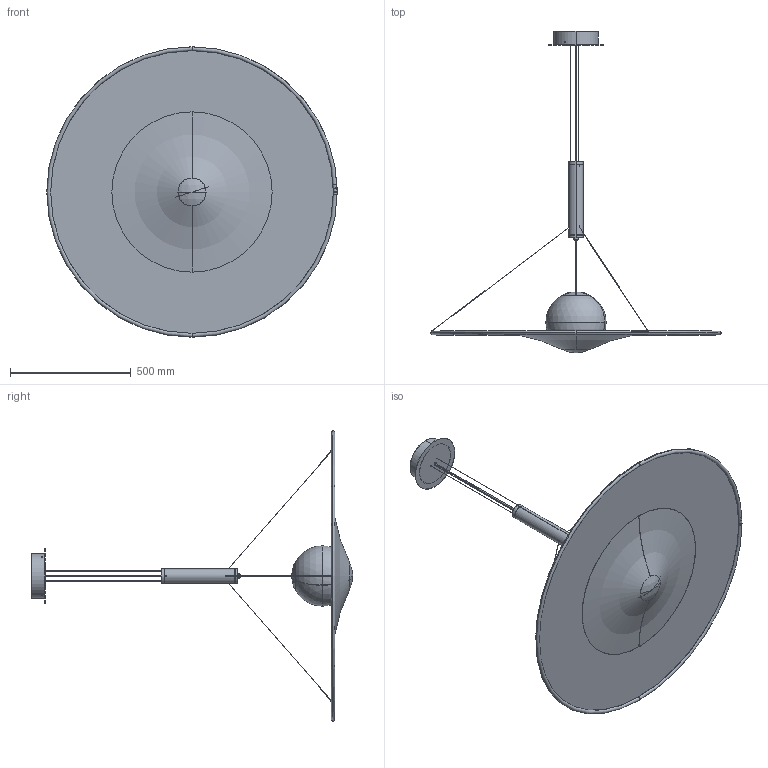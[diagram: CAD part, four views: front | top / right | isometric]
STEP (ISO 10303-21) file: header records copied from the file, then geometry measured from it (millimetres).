
FILE_DESCRIPTION (( 'STEP AP203' ), '1' );
FILE_NAME ('1200down.STEP', '2019-07-25T15:39:08', ( '' ), ( '' ), 'SwSTEP 2.0', 'SolidWorks 2019', '' );
FILE_SCHEMA (( 'CONFIG_CONTROL_DESIGN' ));
Length unit declared in the file: millimetre
Products named in the file (27): 1.5A.AXO02.LS01.S1_rev_A.STEP; Part172^1200down; 1.5C.AXO02.LS01.13_rev_A_Default_A macchina_.STEP; 1.5A.AXO02.LS01.M6.STEP; 1.5A.AXO02.LS01.M7.STEP; 1.5C.AXO02.LS01.50_FUNE D''''ACCIAIO INOX 49 CAPI L.500.STEP; 1200down; Morsetto Unipolare X2 Wago 221-412.STEP; Bloccacavo Steab_NERO 5100-7-08-2-6.STEP; 0.5A.AXO02.LS02.M1.STEP; 1.5C.AXO02.LS01.04.STEP; 0.5C.AXO02.LS02.01_rev_A_SENZA CARICO.STEP; 1.5C.AXO02.LS01.20_rev_A_Default_A macchina_.STEP; 1200down.STEP; 1.5C.AXO02.LS01.14.STEP; 1.5A.AXO02.LS01.S3.STEP; 0.5C.AXO02.LS02.03.STEP; 1.5C.AXO02.LS01.51.STEP; 0.5A.AXO02.LS02.M2.STEP; 1.5C.AXO02.LS01.21.STEP; 1.5C.AXO02.LS01.17_rev_A.STEP; 0.5C.AXO02.LS02.98.STEP; 0.5C.AXO02.LS02.06_rev_A.STEP; 1.5A.AXO02.LS01.S4.STEP; Finale Maschio M6 art.21024.STEP; Nipplo A_NIPPLO M10x1 H.7 NERO.STEP; 1.5C.AXO02.LS01.10.STEP
Assembly tree (33 placements, depth 5):
  1200down
    1200down.STEP
      1.5A.AXO02.LS01.S1_rev_A.STEP
        1.5C.AXO02.LS01.04.STEP
      0.5A.AXO02.LS02.M1.STEP
        0.5C.AXO02.LS02.01_rev_A_SENZA CARICO.STEP
      0.5A.AXO02.LS02.M2.STEP
        0.5C.AXO02.LS02.03.STEP
        0.5C.AXO02.LS02.06_rev_A.STEP
      1.5A.AXO02.LS01.M6.STEP
        1.5A.AXO02.LS01.S4.STEP
          1.5C.AXO02.LS01.21.STEP
        1.5C.AXO02.LS01.10.STEP
      1.5A.AXO02.LS01.M7.STEP
        1.5A.AXO02.LS01.S3.STEP
          1.5C.AXO02.LS01.17_rev_A.STEP
        Nipplo A_NIPPLO M10x1 H.7 NERO.STEP
        1.5C.AXO02.LS01.20_rev_A_Default_A macchina_.STEP
      1.5C.AXO02.LS01.50_FUNE D''''ACCIAIO INOX 49 CAPI L.500.STEP  x3
      Finale Maschio M6 art.21024.STEP  x3
      Bloccacavo Steab_NERO 5100-7-08-2-6.STEP
      Morsetto Unipolare X2 Wago 221-412.STEP  x2
      1.5C.AXO02.LS01.13_rev_A_Default_A macchina_.STEP
      1.5C.AXO02.LS01.14.STEP
      0.5C.AXO02.LS02.98.STEP  x3
      1.5C.AXO02.LS01.51.STEP
    Part172^1200down
Bounding box: 1200 x 1329.08 x 1200 mm (x, y, z)
Volume: 2262668.2 mm3; surface area: 3321066.4 mm2
Topology: 34 solids, 34 shells, 839 faces, 2026 edges, 1275 vertices
Faces by surface type: cylinder 396, plane 250, torus 112, cone 63, sphere 18
Entity records: 25032 total; most frequent: CARTESIAN_POINT 7159, DIRECTION 3358, ORIENTED_EDGE 2904, EDGE_CURVE 1452, AXIS2_PLACEMENT_3D 1383, VERTEX_POINT 923, EDGE_LOOP 751, CIRCLE 728
